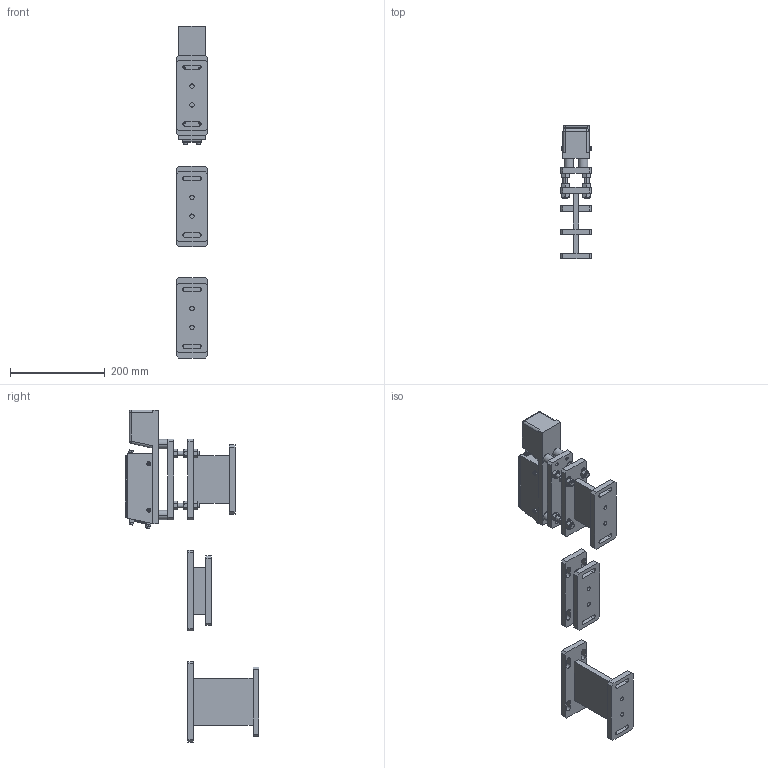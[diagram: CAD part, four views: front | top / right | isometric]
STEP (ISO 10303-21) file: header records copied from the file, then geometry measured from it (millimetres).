
FILE_DESCRIPTION (( 'STEP AP214' ), '1' );
FILE_NAME ('ZY140 ÐÂ¿î2025.STEP', '2025-05-29T01:42:28', ( '' ), ( '' ), 'SwSTEP 2.0', 'SolidWorks 2022', '' );
FILE_SCHEMA (( 'AUTOMOTIVE_DESIGN' ));
Length unit declared in the file: millimetre
Products named in the file (1): ZY140  陔遴2025
Bounding box: 65 x 282.09 x 701.84 mm (x, y, z)
Volume: 1941698.4 mm3; surface area: 368219.4 mm2
Topology: 29 solids, 37 shells, 830 faces, 2007 edges, 1281 vertices
Faces by surface type: plane 456, cylinder 232, cone 116, torus 22, sphere 4
Entity records: 30007 total; most frequent: CARTESIAN_POINT 8491, DIRECTION 4169, ORIENTED_EDGE 3970, EDGE_CURVE 1985, AXIS2_PLACEMENT_3D 1533, VERTEX_POINT 1281, VECTOR 1103, LINE 1103
